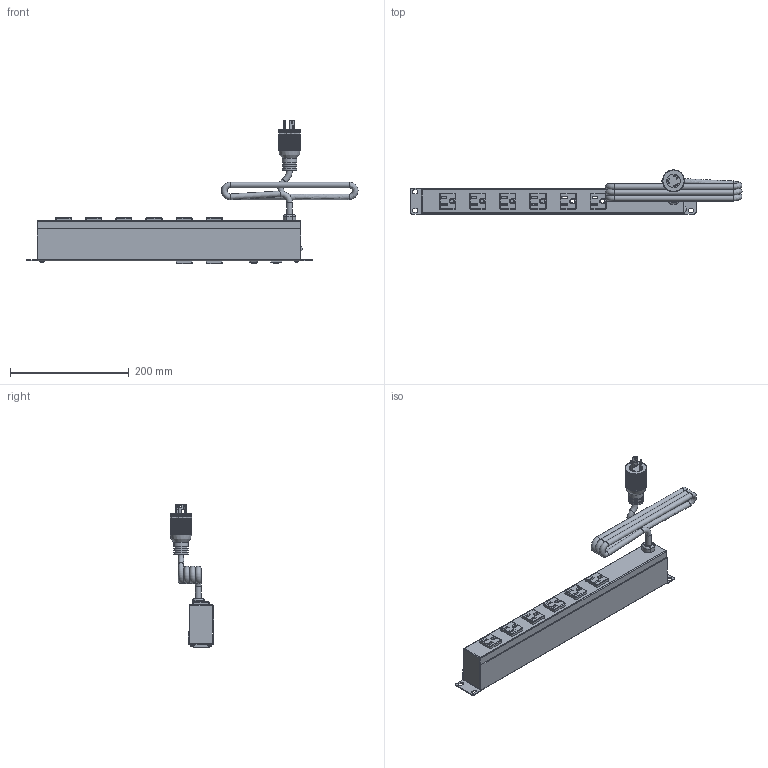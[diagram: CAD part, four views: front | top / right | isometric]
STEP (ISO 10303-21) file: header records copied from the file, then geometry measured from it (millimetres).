
FILE_DESCRIPTION(/* description */ (''),/* implementation_level */ '2;1');
FILE_NAME(/* name */ '1583H8C1BKX.stp',/* time_stamp */ '2024-09-18T07:34:19-04:00',/* author */ ('tfoster'),/* organization */ (''),/* preprocessor_version */ 'ST-DEVELOPER v20',/* originating_system */ 'Autodesk Inventor 2024',/* authorisation */ '');
FILE_SCHEMA (('AUTOMOTIVE_DESIGN { 1 0 10303 214 3 1 1 }'));
Products named in the file (11): 1583H8C1BKX; 1582 Front plate; 1582 Back Plate; #30068; Power Switch Assembly; Power Switch; Power Switch pt; Reset Switch; Twist Cored 2; Receptacle; tamper proof screw
Assembly tree (20 placements, depth 3):
  1583H8C1BKX
    1582 Front plate
    1582 Back Plate
    #30068  x4
    Power Switch Assembly
      Power Switch
      Power Switch pt
    Reset Switch
    Twist Cored 2
    Receptacle  x8
    tamper proof screw
Bounding box: 560.01 x 74.07 x 242.61 mm (x, y, z)
Volume: 421659.9 mm3; surface area: 316566.6 mm2
Topology: 19 solids, 19 shells, 1280 faces, 3377 edges, 2140 vertices
Faces by surface type: plane 804, cylinder 334, bspline 64, sphere 37, cone 27, torus 14
Full cylindrical faces by diameter (mm): 1 x1, 1.803 x3, 1.905 x2, 2.13 x20, 2.286 x1, 2.997 x4, 3.175 x3, 3.505 x12, 4.801 x1, 5.563 x4, 9.5 x5, 11 x1, 19.05 x1, 21.59 x2, 22.86 x1, 24.765 x3
Entity records: 29906 total; most frequent: CARTESIAN_POINT 9788, ORIENTED_EDGE 4216, DIRECTION 3891, EDGE_CURVE 2108, LINE 1397, VECTOR 1397, VERTEX_POINT 1350, AXIS2_PLACEMENT_3D 1247
